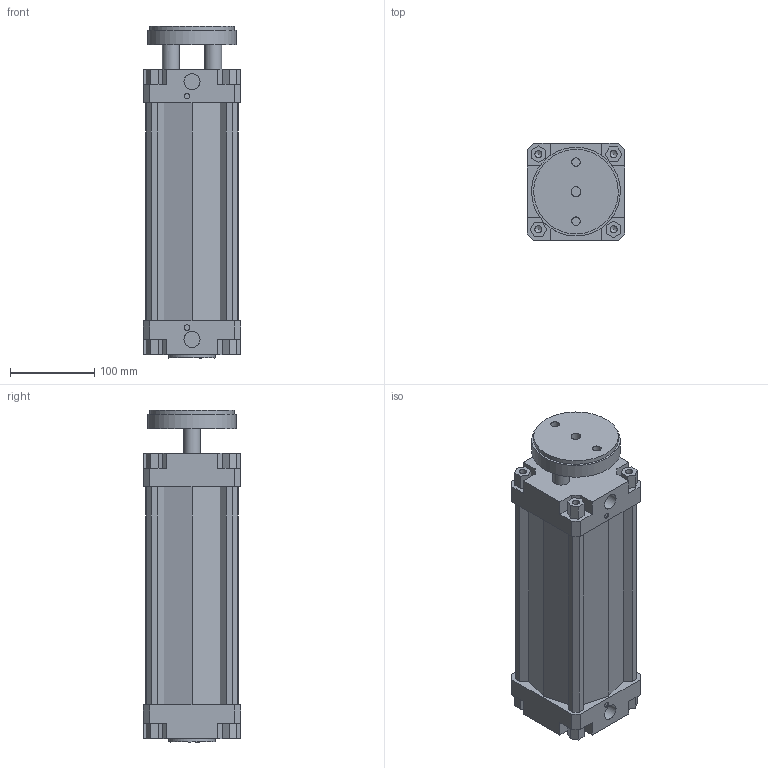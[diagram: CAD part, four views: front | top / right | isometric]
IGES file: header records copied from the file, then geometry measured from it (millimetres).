
Global section: file name: 132#_100_0200_01; native system: Autodesk Inventor 2014; preprocessor: unknown; author: A. Manieri; date: 20161006.163711; units: millimetre
Bounding box: 115 x 115 x 393 mm (x, y, z)
Volume: 2400148.9 mm3; surface area: 392435.4 mm2
Topology: 2 solids, 2 shells, 180 faces, 491 edges, 335 vertices
Faces by surface type: bspline 180
